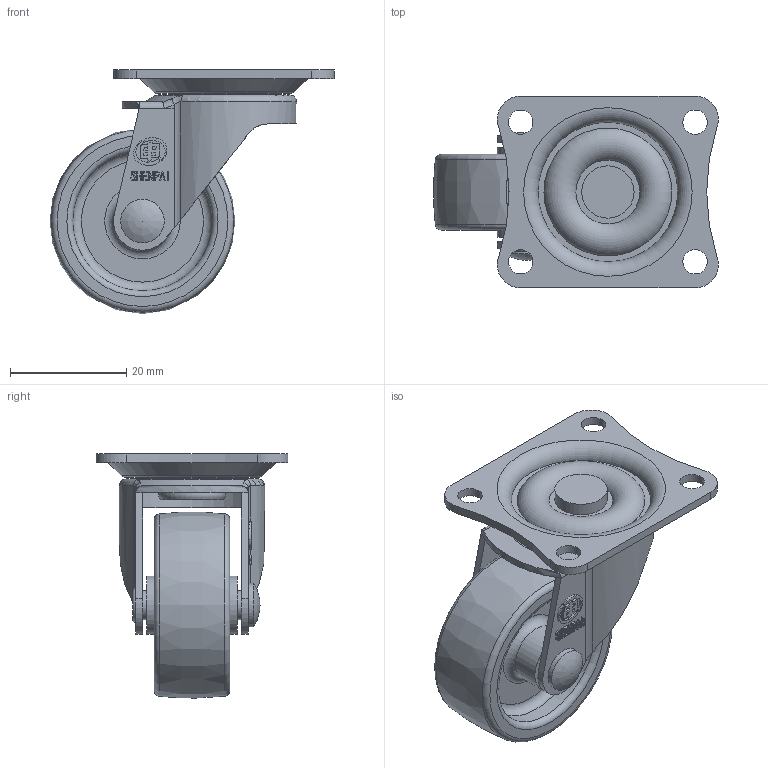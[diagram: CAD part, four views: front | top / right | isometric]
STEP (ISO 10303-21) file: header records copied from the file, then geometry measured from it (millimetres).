
FILE_DESCRIPTION(/* description */ (''),/* implementation_level */ '2;1');
FILE_NAME(/* name */ '10A04_1.25_F.stp',/* time_stamp */ '2022-10-06T13:42:02+08:00',/* author */ (''),/* organization */ (''),/* preprocessor_version */ 'ST-DEVELOPER v14',/* originating_system */ 'SIEMENS PLM Software NX 8.0',/* authorisation */ '');
FILE_SCHEMA (('AUTOMOTIVE_DESIGN { 1 0 10303 214 3 1 1 1 }'));
Length unit declared in the file: millimetre
Products named in the file (1): 10A04_1.25_F
Bounding box: 48.96 x 33 x 42 mm (x, y, z)
Volume: 11055.2 mm3; surface area: 10491.4 mm2
Topology: 1 solids, 1 shells, 309 faces, 829 edges, 561 vertices
Faces by surface type: plane 193, cylinder 67, torus 18, sphere 16, bspline 10, cone 5
Full cylindrical faces by diameter (mm): 4 x1, 4.2 x4, 5 x2, 5.2 x2, 7 x1, 7.1 x1, 7.5 x1, 8 x1, 8.5 x1, 9 x1, 10 x2, 24 x2
Entity records: 9639 total; most frequent: CARTESIAN_POINT 2602, ORIENTED_EDGE 1462, DIRECTION 1278, EDGE_CURVE 731, VERTEX_POINT 522, AXIS2_PLACEMENT_3D 501, EDGE_LOOP 448, ADVANCED_FACE 309
